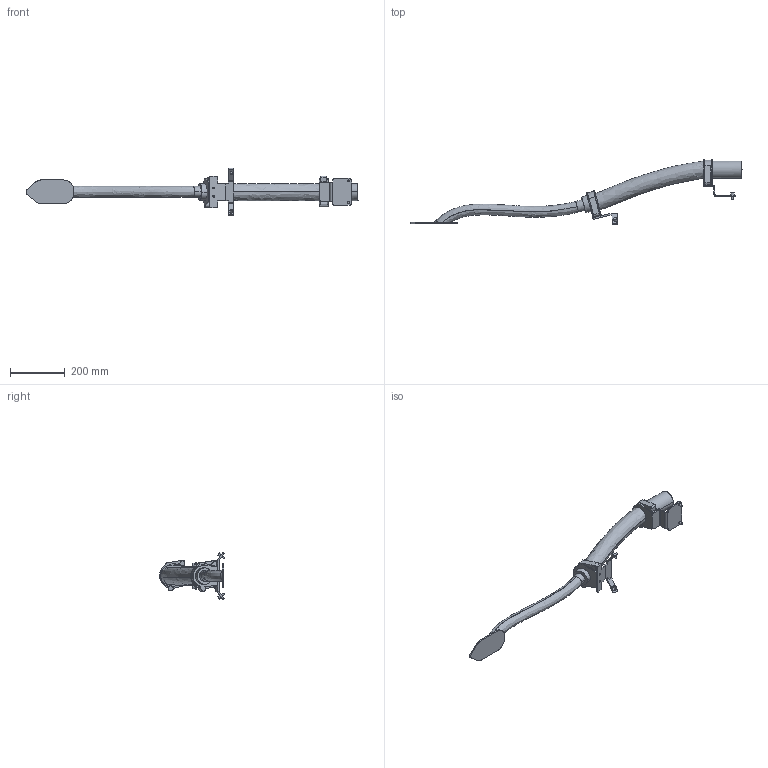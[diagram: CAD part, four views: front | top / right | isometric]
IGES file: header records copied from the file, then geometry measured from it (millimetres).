
Start section: SolidWorks IGES file using analytic representation for surfaces
Global section: file name: C:\Users\SEAMSTO1\OneDrive - ABB\PT\Macro\IGES\IRB6760-MH3_200kg-320_OC_00_IGES_J\IRB6760-MH3_200kg-320_OC_00_LINK04_CABLE.igs; native system: SolidWorks 2024; preprocessor: SolidWorks 2024; author: SEAMSTO1; date: 250930.151443; units: millimetre
Bounding box: 1217.81 x 238.88 x 174.65 mm (x, y, z)
Surface area: 303671.3 mm2 (no closed solid volume)
Topology: 0 solids, 0 shells, 281 faces, 3744 edges, 3744 vertices
Faces by surface type: bspline 188, revolution 93
